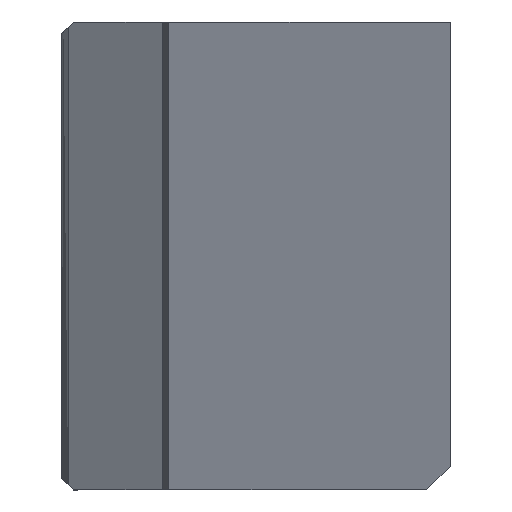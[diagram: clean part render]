
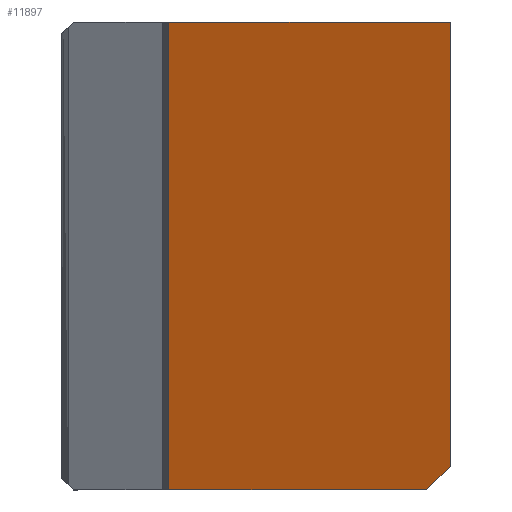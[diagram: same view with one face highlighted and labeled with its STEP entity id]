
A CAD part, left-side view. The second image highlights one B-rep face of the part: STEP entity #11897.
In plain terms, the highlighted planar face has unit normal (-0.943, 0, -0.334).
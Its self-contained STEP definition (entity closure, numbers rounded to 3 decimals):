
#948 = FACE_OUTER_BOUND ( 'NONE', #22722, .T. ) ;
#2882 = VERTEX_POINT ( 'NONE', #17217 ) ;
#3020 = DIRECTION ( 'NONE',  ( -0.243, -0.686, 0.686 ) ) ;
#6980 = CARTESIAN_POINT ( 'NONE',  ( 0., 49., 0. ) ) ;
#7511 = CARTESIAN_POINT ( 'NONE',  ( 0., 0., 0. ) ) ;
#8308 = LINE ( 'NONE', #19570, #25529 ) ;
#8441 = ORIENTED_EDGE ( 'NONE', *, *, #32986, .T. ) ;
#9003 = CARTESIAN_POINT ( 'NONE',  ( 20.926, 0., -59. ) ) ;
#10295 = VERTEX_POINT ( 'NONE', #32834 ) ;
#10366 = VERTEX_POINT ( 'NONE', #26446 ) ;
#11897 = ADVANCED_FACE ( 'NONE', ( #948 ), #12777, .T. ) ;
#12777 = PLANE ( 'NONE',  #22792 ) ;
#13755 = CARTESIAN_POINT ( 'NONE',  ( 20.926, 49., -59. ) ) ;
#14994 = DIRECTION ( 'NONE',  ( 0.334, 0., -0.942 ) ) ;
#15025 = CARTESIAN_POINT ( 'NONE',  ( 9.343, -29.657, -26.343 ) ) ;
#17217 = CARTESIAN_POINT ( 'NONE',  ( 19.862, 0., -56. ) ) ;
#19183 = DIRECTION ( 'NONE',  ( 0., -1., 0. ) ) ;
#19570 = CARTESIAN_POINT ( 'NONE',  ( 0., 35.5, 0. ) ) ;
#20449 = LINE ( 'NONE', #15025, #31142 ) ;
#21072 = ORIENTED_EDGE ( 'NONE', *, *, #35684, .F. ) ;
#21252 = VECTOR ( 'NONE', #19183, 1000. ) ;
#21317 = ORIENTED_EDGE ( 'NONE', *, *, #33541, .F. ) ;
#22356 = VERTEX_POINT ( 'NONE', #26593 ) ;
#22722 = EDGE_LOOP ( 'NONE', ( #32126, #8441, #21072, #21317, #32036 ) ) ;
#22792 = AXIS2_PLACEMENT_3D ( 'NONE', #36198, #24578, #27099 ) ;
#23044 = LINE ( 'NONE', #13755, #34142 ) ;
#24578 = DIRECTION ( 'NONE',  ( -0.942, 0., -0.334 ) ) ;
#25529 = VECTOR ( 'NONE', #37732, 1000. ) ;
#26446 = CARTESIAN_POINT ( 'NONE',  ( 20.926, 35.5, -59. ) ) ;
#26593 = CARTESIAN_POINT ( 'NONE',  ( 0., 35.5, 0. ) ) ;
#27099 = DIRECTION ( 'NONE',  ( -0.334, 0., 0.942 ) ) ;
#27465 = EDGE_CURVE ( 'NONE', #10295, #10366, #23044, .T. ) ;
#30535 = VECTOR ( 'NONE', #14994, 1000. ) ;
#31142 = VECTOR ( 'NONE', #3020, 1000. ) ;
#31188 = LINE ( 'NONE', #6980, #21252 ) ;
#32036 = ORIENTED_EDGE ( 'NONE', *, *, #32518, .F. ) ;
#32126 = ORIENTED_EDGE ( 'NONE', *, *, #27465, .F. ) ;
#32443 = LINE ( 'NONE', #9003, #30535 ) ;
#32518 = EDGE_CURVE ( 'NONE', #10366, #22356, #8308, .T. ) ;
#32834 = CARTESIAN_POINT ( 'NONE',  ( 20.926, 3., -59. ) ) ;
#32843 = VERTEX_POINT ( 'NONE', #7511 ) ;
#32986 = EDGE_CURVE ( 'NONE', #10295, #2882, #20449, .T. ) ;
#33541 = EDGE_CURVE ( 'NONE', #22356, #32843, #31188, .T. ) ;
#34142 = VECTOR ( 'NONE', #37179, 1000. ) ;
#35684 = EDGE_CURVE ( 'NONE', #32843, #2882, #32443, .T. ) ;
#36198 = CARTESIAN_POINT ( 'NONE',  ( 0., 0., 0. ) ) ;
#37179 = DIRECTION ( 'NONE',  ( 0., 1., 0. ) ) ;
#37732 = DIRECTION ( 'NONE',  ( -0.334, 0., 0.942 ) ) ;
